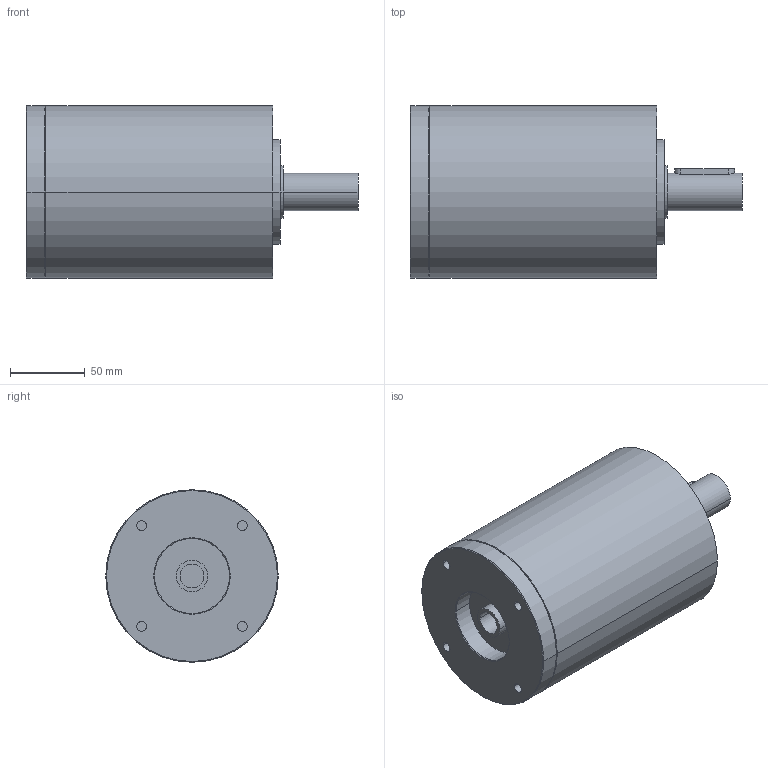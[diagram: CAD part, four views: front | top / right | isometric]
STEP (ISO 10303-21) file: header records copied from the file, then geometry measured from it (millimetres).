
FILE_DESCRIPTION(('CoCreate Modeling STEP Export'),'2;1');
FILE_NAME('GPR125_ig-9-12-16-20-28-35_25_B14_16_P19.stp','2014-08-26T14:10:28',(''),(''),'CoCreate Modeling STEP processor for AP214 (Solid Model)','CoCreate Modeling 16.00C 25-Feb-2009 (C) Parametric Technology GmbH','');
FILE_SCHEMA(('AUTOMOTIVE_DESIGN { 1 0 10303 214 1 1 1 1 }'));
Length unit declared in the file: millimetre
Products named in the file (2): GPR125_ig-9-12-16-20-28-35_25_B14_16_P19
Assembly tree (1 placements, depth 2):
  GPR125_ig-9-12-16-20-28-35_25_B14_16_P19
    GPR125_ig-9-12-16-20-28-35_25_B14_16_P19
Bounding box: 221.4 x 115 x 115 mm (x, y, z)
Volume: 1716731.2 mm3; surface area: 93836.3 mm2
Topology: 1 solids, 1 shells, 66 faces, 164 edges, 114 vertices
Faces by surface type: cylinder 36, plane 20, cone 10
Entity records: 1675 total; most frequent: ORIENTED_EDGE 324, CARTESIAN_POINT 316, DIRECTION 216, EDGE_CURVE 162, VERTEX_POINT 114, AXIS2_PLACEMENT_3D 82, EDGE_LOOP 82, FACE_OUTER_BOUND 66
